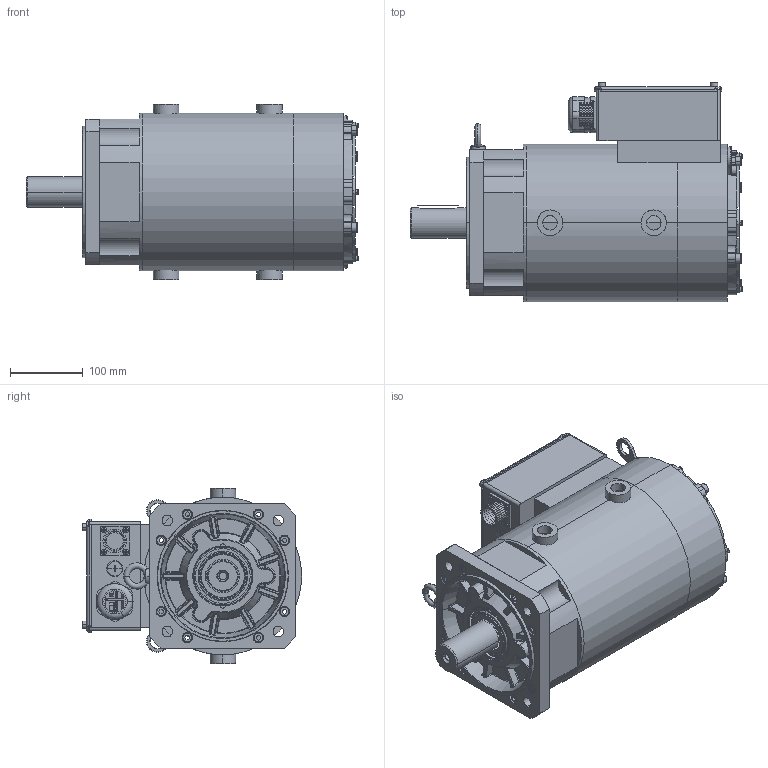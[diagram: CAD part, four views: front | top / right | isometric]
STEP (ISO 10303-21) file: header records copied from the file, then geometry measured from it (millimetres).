
FILE_DESCRIPTION((''),'2;1');
FILE_NAME('11101-01784_SW0001','2026-02-12T16:52:15',('admin'),(''),'CREO PARAMETRIC BY PTC INC, 2019080','CREO PARAMETRIC BY PTC INC, 2019080','');
FILE_SCHEMA(('CONFIG_CONTROL_DESIGN'));
Length unit declared in the file: millimetre
Products named in the file (1): 11101-01784_SW0001
Bounding box: 455 x 300.5 x 240 mm (x, y, z)
Surface area: 908462 mm2 (no closed solid volume)
Topology: 0 solids, 120 shells, 795 faces, 3252 edges, 2486 vertices
Faces by surface type: plane 330, cylinder 302, torus 72, cone 63, bspline 18, sphere 10
Entity records: 37413 total; most frequent: CARTESIAN_POINT 10774, DIRECTION 5827, ORIENTED_EDGE 4518, EDGE_CURVE 3252, VERTEX_POINT 2486, AXIS2_PLACEMENT_3D 2143, VECTOR 1541, LINE 1541
